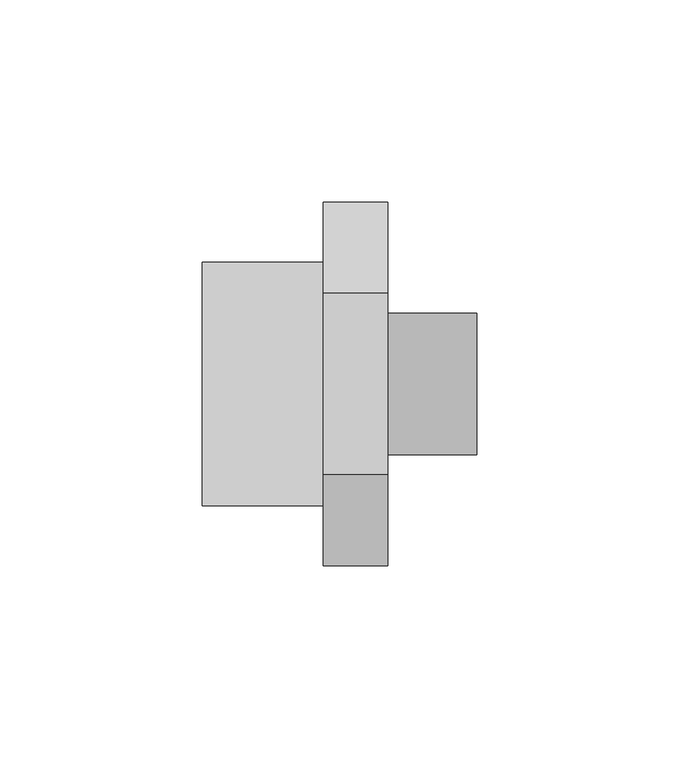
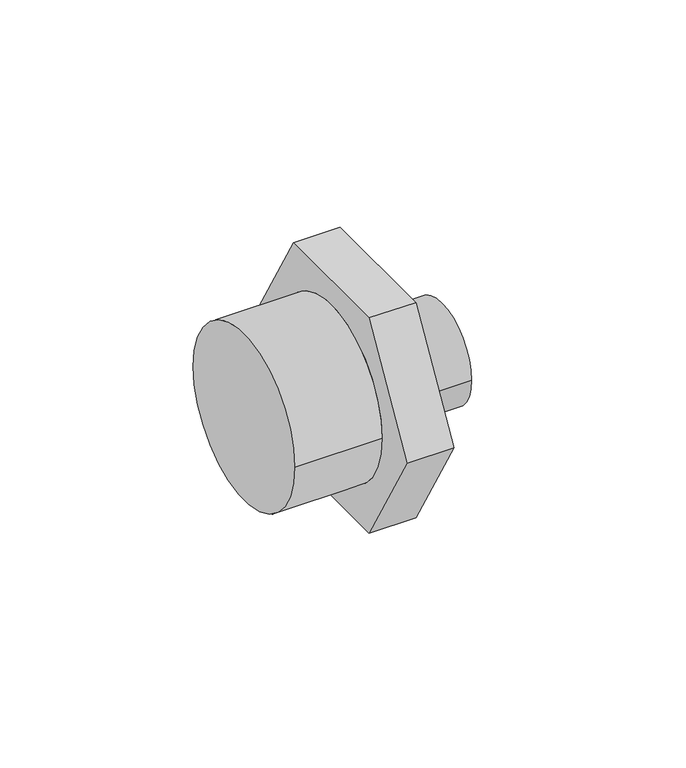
"""IFC4 building model written with IfcOpenShell, lengths in millimetres: pipe fitting geometry, 01011197 : Machones doble rosca reducidas."""

from ifc_helpers import new_model, si_unit, frame, origin, place, context, project, spatial, circle_curve, source, transform, mapped, element, save
from ifc_brep_helpers import plane_surface, cylinder_surface, advanced_brep


def pipe_fitting_ef3eb802(model_context):
    return source(origin(), model_context, "Body", "AdvancedBrep", [
        advanced_brep(
        [(46.0, -22.5166605, 39.0), (46.0, -45.033321, 0.0), (46.0, -22.5166605, -39.0), (46.0, 22.5166605, -39.0), (46.0, 45.033321, 0.0), (46.0, 22.5166605, 39.0), (46.0, -17.4625, 0.0), (46.0, 17.4625, 0.0), (30.0, -22.5166605, 39.0), (30.0, 22.5166605, 39.0), (30.0, 45.033321, 0.0), (30.0, 22.5166605, -39.0), (30.0, -22.5166605, -39.0), (30.0, -45.033321, 0.0), (30.0, 30.1625, 0.0), (30.0, -30.1625, 0.0), (68.0, -17.4625, 0.0), (68.0, 17.4625, 0.0), (0.0, 30.1625, 0.0), (0.0, -30.1625, 0.0)],
        [
            (0, 1),
            (1, 2),
            (2, 3),
            (3, 4),
            (4, 5),
            (5, 0),
            (6, 7, circle_curve(frame((46.0, 0.0, 0.0), z_axis=(-1.0, 0.0, 0.0), x_axis=(0.0, 1.0, 0.0)), 17.4625)),
            (7, 6, circle_curve(frame((46.0, 0.0, 0.0), z_axis=(-1.0, 0.0, 0.0), x_axis=(0.0, 1.0, 0.0)), 17.4625)),
            (8, 9),
            (9, 10),
            (10, 11),
            (11, 12),
            (12, 13),
            (13, 8),
            (14, 15, circle_curve(frame((30.0, 0.0, 0.0), z_axis=(1.0, 0.0, 0.0), x_axis=(0.0, -1.0, 0.0)), 30.1625)),
            (15, 14, circle_curve(frame((30.0, 0.0, 0.0), z_axis=(1.0, 0.0, 0.0), x_axis=(0.0, -1.0, 0.0)), 30.1625)),
            (0, 8),
            (13, 1),
            (12, 2),
            (11, 3),
            (10, 4),
            (9, 5),
            (16, 17, circle_curve(frame((68.0, 0.0, 0.0), z_axis=(1.0, 0.0, 0.0), x_axis=(0.0, 1.0, 0.0)), 17.4625)),
            (17, 16, circle_curve(frame((68.0, 0.0, 0.0), z_axis=(1.0, 0.0, 0.0), x_axis=(0.0, 1.0, 0.0)), 17.4625)),
            (17, 7),
            (6, 16),
            (18, 19, circle_curve(frame((0.0, 0.0, 0.0), z_axis=(-1.0, 0.0, 0.0), x_axis=(0.0, -1.0, 0.0)), 30.1625)),
            (19, 18, circle_curve(frame((0.0, 0.0, 0.0), z_axis=(-1.0, 0.0, 0.0), x_axis=(0.0, -1.0, 0.0)), 30.1625)),
            (19, 15),
            (14, 18),
        ],
        [
            plane_surface(frame((46.0, -22.5166605, 39.0), z_axis=(1.0, 0.0, 0.0), x_axis=(0.0, -0.5000000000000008, -0.8660254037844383))),
            plane_surface(frame((30.0, -22.5166605, 39.0), z_axis=(-1.0, 0.0, 0.0), x_axis=(0.0, 0.5000000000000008, 0.8660254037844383))),
            plane_surface(frame((46.0, -22.5166605, 39.0), z_axis=(0.0, -0.8660254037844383, 0.5000000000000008), x_axis=(-1.0, 0.0, 0.0))),
            plane_surface(frame((46.0, -45.033321, 0.0), z_axis=(0.0, -0.8660254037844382, -0.500000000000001), x_axis=(-1.0, 0.0, 0.0))),
            plane_surface(frame((46.0, -22.5166605, -39.0), z_axis=(0.0, 0.0, -1.0), x_axis=(-1.0, 0.0, 0.0))),
            plane_surface(frame((46.0, 22.5166605, -39.0), z_axis=(0.0, 0.8660254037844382, -0.500000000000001), x_axis=(-1.0, 0.0, 0.0))),
            plane_surface(frame((46.0, 45.033321, 0.0), z_axis=(0.0, 0.866025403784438, 0.500000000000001), x_axis=(-1.0, 0.0, 0.0))),
            plane_surface(frame((46.0, 22.5166605, 39.0), z_axis=(0.0, 0.0, 1.0), x_axis=(-1.0, 0.0, 0.0))),
            plane_surface(frame((68.0, 0.0, 0.0), z_axis=(1.0, 0.0, 0.0), x_axis=(0.0, 0.0, 1.0))),
            cylinder_surface(frame((46.0, 0.0, 0.0), z_axis=(-1.0, 0.0, 0.0), x_axis=(0.0, 1.0, 0.0)), 17.4625),
            plane_surface(frame((0.0, 0.0, 0.0), z_axis=(-1.0, 0.0, 0.0), x_axis=(0.0, 0.0, 1.0))),
            cylinder_surface(frame((30.0, 0.0, 0.0), z_axis=(1.0, 0.0, 0.0), x_axis=(0.0, -1.0, 0.0)), 30.1625),
        ],
        [
            (0, [[1, 2, 3, 4, 5, 6], [7, 8]]),
            (1, [[9, 10, 11, 12, 13, 14], [15, 16]]),
            (2, [[-1, 17, -14, 18]]),
            (3, [[-2, -18, -13, 19]]),
            (4, [[-3, -19, -12, 20]]),
            (5, [[-4, -20, -11, 21]]),
            (6, [[-5, -21, -10, 22]]),
            (7, [[-6, -22, -9, -17]]),
            (8, [[23, 24]]),
            (9, [[-24, 25, -7, 26]]),
            (9, [[-23, -26, -8, -25]]),
            (10, [[27, 28]]),
            (11, [[-28, 29, -15, 30]]),
            (11, [[-27, -30, -16, -29]]),
        ],
    ),
    ])


if __name__ == "__main__":
    model = new_model("IFC4")
    model_context = context("Model", 3, world=origin())
    ifc_project = project(units=[si_unit("LENGTHUNIT", "METRE", prefix="MILLI")], contexts=[model_context])
    site = spatial("IfcSite", under=ifc_project)
    building = spatial("IfcBuilding", under=site)
    placement = place(None, origin())
    pipe_fitting_shape = pipe_fitting_ef3eb802(model_context)
    element("IfcPipeFitting", 1, ObjectType="01011197 : Machones doble rosca reducidas", at=placement, inside=building, context=model_context, shape_type="MappedRepresentation", body=[
        mapped(pipe_fitting_shape, transform((0.0, 0.0, 0.0), x_axis=(1.0, 0.0, 0.0), y_axis=(0.0, 1.0, 0.0), z_axis=(0.0, 0.0, 1.0))),
    ])
    save(model, "model.ifc")
